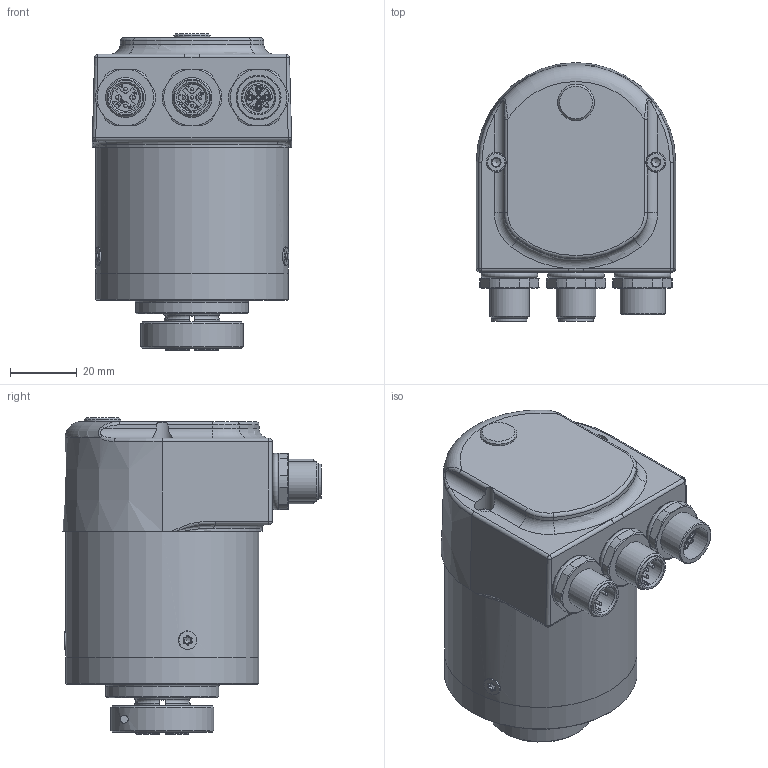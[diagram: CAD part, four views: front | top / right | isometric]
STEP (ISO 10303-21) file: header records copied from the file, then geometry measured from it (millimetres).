
FILE_DESCRIPTION(/* description */ ('Unknown'),/* implementation_level */ '2;1');
FILE_NAME(/* name */ 'EN580C.xL-BN14.HH1PB.xxxx.A',/* time_stamp */ '2023-04-14T15:19:15+02:00',/* author */ ('Unknown'),/* organization */ ('Baumer'),/* preprocessor_version */ 'ST-DEVELOPER v16.7',/* originating_system */ 'Solid Edge',/* authorisation */ 'Unknown');
FILE_SCHEMA (('AP203_CONFIGURATION_CONTROLLED_3D_DESIGN_OF_MECHANICAL_PARTS_AND_ASSEMBLIES_MIM_LF { 1 0 10303 203 3 1 4 }','AUTOMOTIVE_DESIGN {1 0 10303 214 3 1 1}'));
Length unit declared in the file: millimetre
Products named in the file (1): EN580C.xL-BN14.HH1PB.xxxx.A
Bounding box: 60 x 77.8 x 95.2 mm (x, y, z)
Volume: 233188.4 mm3; surface area: 31826.8 mm2
Topology: 2 solids, 2 shells, 924 faces, 2311 edges, 1451 vertices
Faces by surface type: plane 319, cylinder 279, cone 116, torus 105, bspline 91, sphere 14
Full cylindrical faces by diameter (mm): 1 x14, 1.05 x4, 1.2 x5, 2.459 x15, 3 x1, 3.5 x1, 5.5 x3, 5.6 x1, 5.68 x2, 6 x2, 8.3 x2, 9.6 x1, 10.376 x2, 10.5 x2, 11 x1, 12 x2, 13.5 x1, 14 x1, 16 x3, 17 x1, 22.4 x1, 25.6 x1, 26 x1, 34 x1, 57.975 x1, 58 x1
Entity records: 37333 total; most frequent: CARTESIAN_POINT 10684, ORIENTED_EDGE 4086, DIRECTION 4020, EDGE_CURVE 2043, AXIS2_PLACEMENT_3D 1576, VERTEX_POINT 1360, FACE_BOUND 1163, EDGE_LOOP 1149
